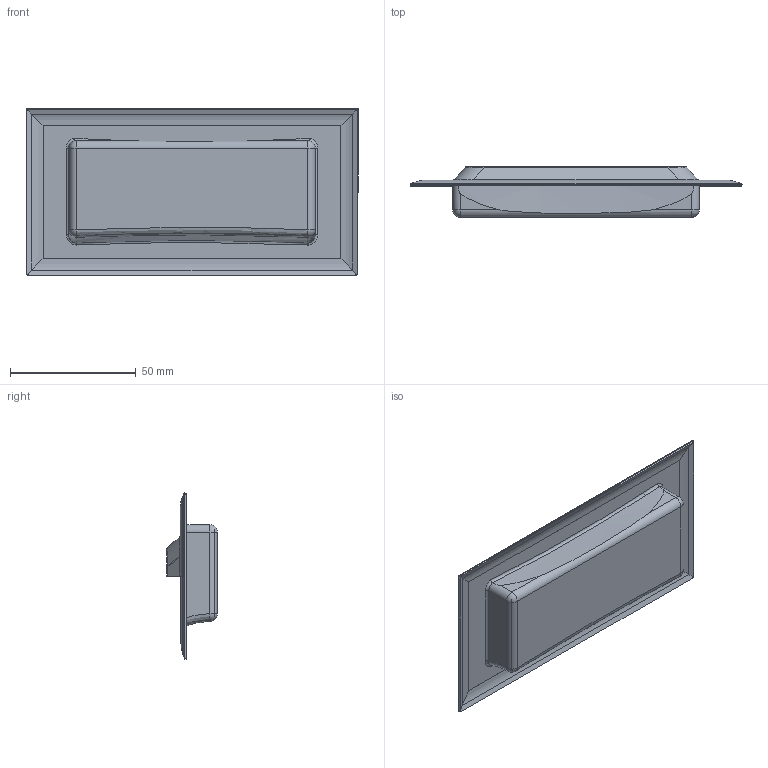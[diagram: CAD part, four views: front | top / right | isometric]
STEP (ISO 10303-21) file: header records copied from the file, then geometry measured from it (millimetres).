
FILE_DESCRIPTION (( 'STEP AP203' ), '1' );
FILE_NAME ('XG01-038.STEP', '2024-03-13T00:18:54', ( '' ), ( '' ), 'SwSTEP 2.0', 'SolidWorks 2020', '' );
FILE_SCHEMA (( 'CONFIG_CONTROL_DESIGN' ));
Length unit declared in the file: millimetre
Products named in the file (1): XG01-038
Bounding box: 132.05 x 20.19 x 66.45 mm (x, y, z)
Volume: 11778.9 mm3; surface area: 39789.7 mm2
Topology: 4 solids, 4 shells, 154 faces, 370 edges, 220 vertices
Faces by surface type: plane 70, cylinder 45, bspline 31, sphere 4, torus 4
Entity records: 5324 total; most frequent: CARTESIAN_POINT 2068, ORIENTED_EDGE 732, DIRECTION 568, EDGE_CURVE 366, VERTEX_POINT 220, LINE 192, VECTOR 192, AXIS2_PLACEMENT_3D 188
